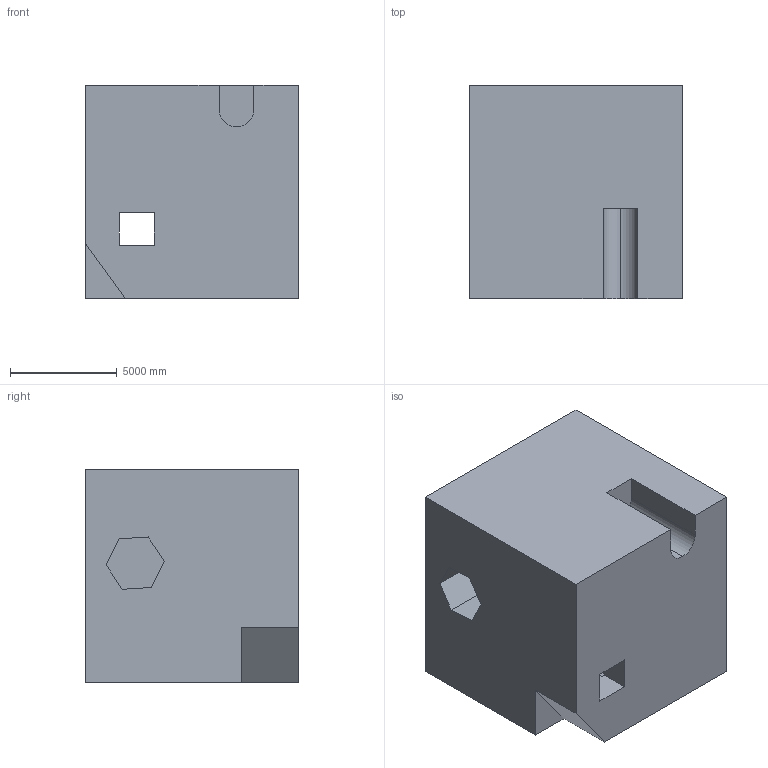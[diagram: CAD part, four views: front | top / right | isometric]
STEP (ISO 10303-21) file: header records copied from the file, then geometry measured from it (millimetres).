
FILE_DESCRIPTION (( 'STEP AP203' ), '1' );
FILE_NAME ('1598.STEP', '2022-08-18T16:03:26', ( 'user' ), ( '' ), 'SwSTEP 2.0', 'SolidWorks 2021', '' );
FILE_SCHEMA (( 'CONFIG_CONTROL_DESIGN' ));
Length unit declared in the file: centimetre
Products named in the file (1): 1598
Bounding box: 10000 x 10000 x 10000 mm (x, y, z)
Volume: 890610123802.7 mm3; surface area: 755146323.2 mm2
Topology: 1 solids, 1 shells, 36 faces, 105 edges, 70 vertices
Faces by surface type: plane 34, cylinder 2
Entity records: 1258 total; most frequent: CARTESIAN_POINT 212, ORIENTED_EDGE 210, DIRECTION 183, EDGE_CURVE 105, VECTOR 101, LINE 101, VERTEX_POINT 70, AXIS2_PLACEMENT_3D 41
